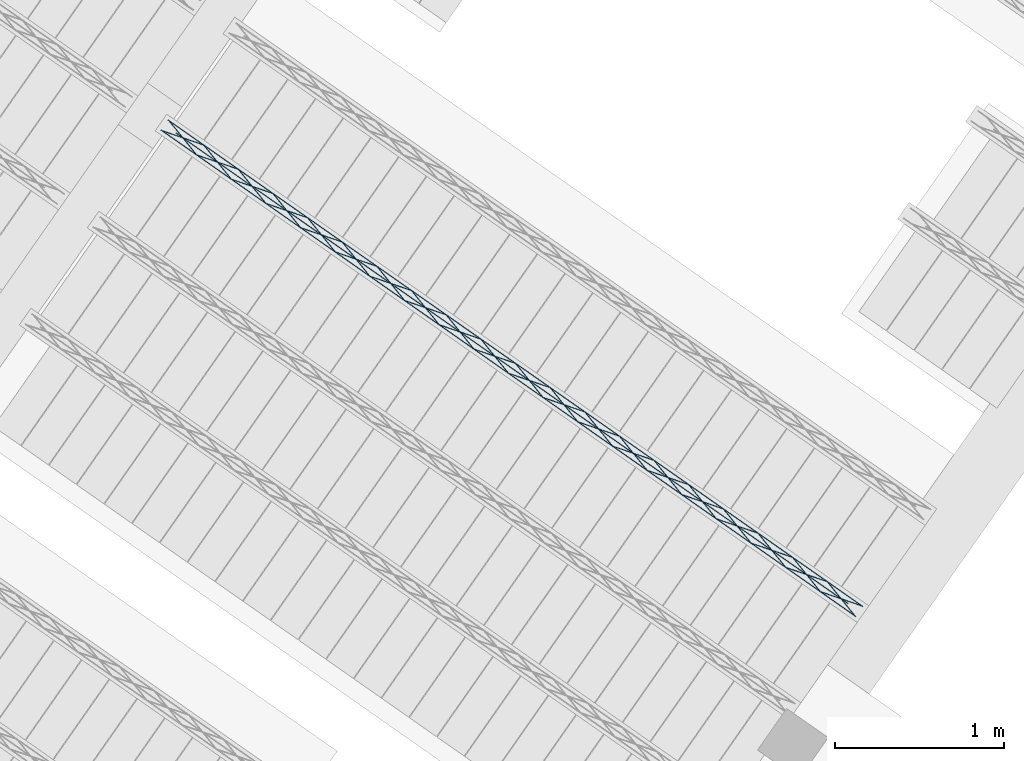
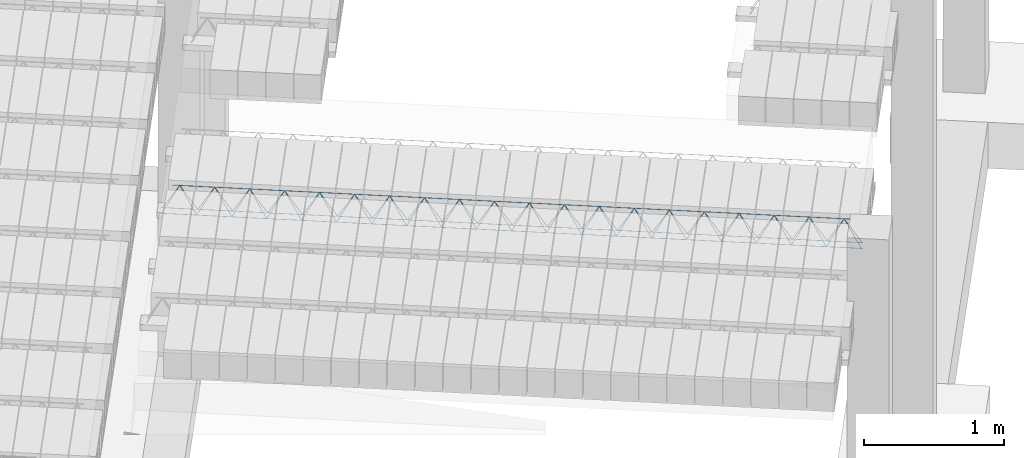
# One storey, part 26 of 80: 1 member.
"""IFC2X3 building model written with IfcOpenShell, lengths in metres."""

import ifcopenshell
import ifcopenshell.guid

model = None  # the IFC model being written
_history = None  # IfcOwnerHistory: only IFC2X3 demands one
_inside = {}  # id of a spatial element -> (the spatial element, [elements in it])
_under = {}  # id of a project, library or spatial element -> (it, [spatial elements below it])
_declared = {}  # id of a project -> (the project, [libraries it declares])
_typed = {}  # id of a type object -> (the type object, [elements of that type])
_made_of = {}  # id of a material, layer set ... -> (it, [elements and type objects made of it])


def new_model(schema):
    """Start an empty IFC model of exactly this schema.

    Asked for "IFC4X3", IfcOpenShell would pick the latest addendum, in which some entities
    have other attributes; the version numbers below select the first issue.
    IFC2X3 requires an IfcOwnerHistory on every rooted entity: one is made here for all.
    """
    global model, _history
    if schema == "IFC4X3":
        model = ifcopenshell.file(schema_version=(4, 3, 0, 0))
    else:
        model = ifcopenshell.file(schema=schema)
    _inside.clear()
    _under.clear()
    _declared.clear()
    _typed.clear()
    _made_of.clear()
    _history = None
    if model.schema == "IFC2X3":
        org = make("IfcOrganization", Name="unknown")
        user = make(
            "IfcPersonAndOrganization",
            ThePerson=make("IfcPerson", FamilyName="unknown"),
            TheOrganization=org,
        )
        app = make(
            "IfcApplication",
            ApplicationDeveloper=org,
            Version="unknown",
            ApplicationFullName="unknown",
            ApplicationIdentifier="unknown",
        )
        _history = make(
            "IfcOwnerHistory",
            OwningUser=user,
            OwningApplication=app,
            ChangeAction="ADDED",
            CreationDate=0,
        )
    return model


def make(cls, **values):
    """One entity of the class cls with the attributes given. An attribute that is None is left unset."""
    return model.create_entity(
        cls, **{name: value for name, value in values.items() if value is not None}
    )


def entity(cls, *values):
    """Any entity or typed value of the class cls, its attributes in the order of the schema. None: left unset."""
    e = model.create_entity(cls)
    for i, value in enumerate(values):
        if value is not None:
            e[i] = value
    return e


def rooted(cls, **values):
    """An entity with a GlobalId (a new one), such as an element, a storey or a relation."""
    return make(cls, GlobalId=ifcopenshell.guid.new(), OwnerHistory=_history, **values)


def si_unit(unit_type, name, prefix=None):
    """IfcSIUnit, for example si_unit("LENGTHUNIT", "METRE", prefix="MILLI")."""
    return make("IfcSIUnit", UnitType=unit_type, Prefix=prefix, Name=name)


def converted_unit(unit_type, name, factor, base, dimensions=None, offset=None):
    """IfcConversionBasedUnit, such as the inch: factor (a typed value) times the base unit."""
    return make(
        "IfcConversionBasedUnit"
        if offset is None
        else "IfcConversionBasedUnitWithOffset",
        ConversionOffset=offset,
        Dimensions=None
        if dimensions is None
        else entity("IfcDimensionalExponents", *dimensions),
        UnitType=unit_type,
        Name=name,
        ConversionFactor=make(
            "IfcMeasureWithUnit", ValueComponent=factor, UnitComponent=base
        ),
    )


def derived_unit(unit_type, elements):
    """IfcDerivedUnit: a product of units, each with its exponent."""
    return make(
        "IfcDerivedUnit",
        Elements=[
            make("IfcDerivedUnitElement", Unit=unit, Exponent=power)
            for unit, power in elements
        ],
        UnitType=unit_type,
    )


def assignment(units):
    """IfcUnitAssignment: the units of a project."""
    return None if units is None else make("IfcUnitAssignment", Units=units)


def point(xyz):
    """IfcCartesianPoint."""
    return None if xyz is None else make("IfcCartesianPoint", Coordinates=xyz)


def direction(xyz):
    """IfcDirection."""
    return None if xyz is None else make("IfcDirection", DirectionRatios=xyz)


def frame(location, z_axis=None, x_axis=None):
    """IfcAxis2Placement3D, a coordinate frame: its origin and axes. An axis left out is left unset."""
    return make(
        "IfcAxis2Placement3D",
        Location=point(location),
        Axis=direction(z_axis),
        RefDirection=direction(x_axis),
    )


def frame_2d(location, x_axis=None):
    """IfcAxis2Placement2D, a coordinate frame in the plane: its origin and x axis."""
    return make(
        "IfcAxis2Placement2D", Location=point(location), RefDirection=direction(x_axis)
    )


def origin():
    """The frame at (0, 0, 0) with its axes left unset."""
    return frame((0.0, 0.0, 0.0))


def origin_2d_with_axis():
    """The frame at (0, 0) in the plane with the x axis (1, 0) written out."""
    return frame_2d((0.0, 0.0), x_axis=(1.0, 0.0))


def place(relative_to, where):
    """IfcLocalPlacement: puts the frame where relative to a parent placement (None: the world)."""
    return make(
        "IfcLocalPlacement", PlacementRelTo=relative_to, RelativePlacement=where
    )


def context(
    kind, dimensions, precision=None, world=None, true_north=None, identifier=None
):
    """IfcGeometricRepresentationContext, for example the 3D "Model" context."""
    return make(
        "IfcGeometricRepresentationContext",
        ContextIdentifier=identifier,
        ContextType=kind,
        CoordinateSpaceDimension=dimensions,
        Precision=precision,
        WorldCoordinateSystem=world,
        TrueNorth=true_north,
    )


def subcontext(parent, identifier, kind, view, scale=None):
    """IfcGeometricRepresentationSubContext, for example "Body" below "Model"."""
    return make(
        "IfcGeometricRepresentationSubContext",
        ContextIdentifier=identifier,
        ContextType=kind,
        ParentContext=parent,
        TargetScale=scale,
        TargetView=view,
    )


def project(units=None, contexts=None):
    """IfcProject with its units and contexts."""
    return rooted(
        "IfcProject",
        Name="project",
        RepresentationContexts=contexts,
        UnitsInContext=assignment(units),
    )


def spatial(cls, under=None, at=None, **own):
    """A site, building, storey or space (cls), placed at a placement, below another one or the project."""
    s = rooted(cls, ObjectPlacement=at, **own)
    if under is not None:
        _under.setdefault(under.id(), (under, []))[1].append(s)
    return s


def profile(cls, at=None, kind="AREA", **sizes):
    """A parametric profile (cls). Its sizes go by their IFC names, for example OverallWidth=200.0."""
    return make(cls, ProfileType=kind, Position=at, **sizes)


def circle(**sizes):
    """IfcCircleProfileDef."""
    return profile("IfcCircleProfileDef", **sizes)


def extrude(swept, where, along, depth):
    """IfcExtrudedAreaSolid: the profile swept, set in the frame where, extruded along a direction by depth."""
    return make(
        "IfcExtrudedAreaSolid",
        SweptArea=swept,
        Position=where,
        ExtrudedDirection=direction(along),
        Depth=depth,
    )


def shape(context_of_items, identifier, shape_type, items):
    """IfcShapeRepresentation: the items that make up one representation, for example the "Body"."""
    return make(
        "IfcShapeRepresentation",
        ContextOfItems=context_of_items,
        RepresentationIdentifier=identifier,
        RepresentationType=shape_type,
        Items=items,
    )


def made_of(thing, what):
    """Note that an element or type object is made of a material, layer set ...; save() writes the relation."""
    if what is not None:
        _made_of.setdefault(what.id(), (what, []))[1].append(thing)
    return thing


def type_object(cls, material=None, **own):
    """A type object (cls), such as IfcWallType, which elements share."""
    return made_of(rooted(cls, **own), material)


def element(
    cls,
    number,
    at=None,
    inside=None,
    cuts=None,
    type_object=None,
    material=None,
    context=None,
    identifier="Body",
    shape_type=None,
    held_by="IfcProductDefinitionShape",
    body=None,
    shapes=None,
    **own,
):
    """One element of the class cls, such as IfcWall. Its Tag is "e" and its number.

    at: its placement. inside: the storey or other place that contains it. cuts: it is an
    opening in that element (IfcRelVoidsElement). A single representation is given by context,
    identifier, shape_type and body (its items); several are given by shapes. held_by: the class
    of the entity that holds the representations. save() writes the other relations.
    """
    e = rooted(cls, Tag="e%d" % number, ObjectPlacement=at, **own)
    if body is not None:
        shapes = [shape(context, identifier, shape_type, body)]
    if shapes is not None:
        e.Representation = make(held_by, Representations=shapes)
    if inside is not None:
        _inside.setdefault(inside.id(), (inside, []))[1].append(e)
    if cuts is not None:
        rooted(
            "IfcRelVoidsElement", RelatingBuildingElement=cuts, RelatedOpeningElement=e
        )
    if type_object is not None:
        _typed.setdefault(type_object.id(), (type_object, []))[1].append(e)
    return made_of(e, material)


def aggregate(whole, parts):
    """IfcRelAggregates: a whole, such as a stair, and the parts it consists of."""
    return rooted("IfcRelAggregates", RelatingObject=whole, RelatedObjects=parts)


def save(model, path):
    """Write the relations noted so far, then the file.

    IfcRelAggregates (storeys below a building ...), IfcRelContainedInSpatialStructure (elements
    in a storey), IfcRelDefinesByType, IfcRelAssociatesMaterial and IfcRelDeclares: one each for
    every whole, place, type object, material and project.
    """
    for whole, parts in _under.values():
        aggregate(whole, parts)
    for where, things in _inside.values():
        rooted(
            "IfcRelContainedInSpatialStructure",
            RelatedElements=things,
            RelatingStructure=where,
        )
    for kind, things in _typed.values():
        rooted("IfcRelDefinesByType", RelatedObjects=things, RelatingType=kind)
    for what, things in _made_of.values():
        rooted("IfcRelAssociatesMaterial", RelatedObjects=things, RelatingMaterial=what)
    for by, libraries in _declared.values():
        rooted("IfcRelDeclares", RelatingContext=by, RelatedDefinitions=libraries)
    model.write(path)


model = new_model("IFC2X3")

# Units and contexts
model_context = context("Model", 3, precision=1e-05, world=origin(), true_north=direction((6.123031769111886e-17, 1.0)))
body_context = subcontext(model_context, "Body", "Model", "MODEL_VIEW")
ifc_project = project(units=[si_unit("LENGTHUNIT", "METRE"), si_unit("AREAUNIT", "SQUARE_METRE"), si_unit("VOLUMEUNIT", "CUBIC_METRE"), converted_unit("PLANEANGLEUNIT", "DEGREE", entity("IfcPlaneAngleMeasure", 0.017453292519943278), si_unit("PLANEANGLEUNIT", "RADIAN"), dimensions=[0, 0, 0, 0, 0, 0, 0]), si_unit("MASSUNIT", "GRAM", prefix="KILO"), derived_unit("MASSDENSITYUNIT", [(si_unit("MASSUNIT", "GRAM", prefix="KILO"), 1), (si_unit("LENGTHUNIT", "METRE"), -3)]), derived_unit("IONCONCENTRATIONUNIT", [(si_unit("MASSUNIT", "GRAM", prefix="KILO"), 1), (si_unit("LENGTHUNIT", "METRE"), -3)]), derived_unit("MOMENTOFINERTIAUNIT", [(si_unit("LENGTHUNIT", "METRE"), 4)]), si_unit("TIMEUNIT", "SECOND"), si_unit("FREQUENCYUNIT", "HERTZ"), si_unit("THERMODYNAMICTEMPERATUREUNIT", "DEGREE_CELSIUS"), derived_unit("THERMALTRANSMITTANCEUNIT", [(si_unit("MASSUNIT", "GRAM", prefix="KILO"), 1), (si_unit("THERMODYNAMICTEMPERATUREUNIT", "KELVIN"), -1), (si_unit("TIMEUNIT", "SECOND"), -3)]), derived_unit("THERMALCONDUCTANCEUNIT", [(si_unit("MASSUNIT", "GRAM", prefix="KILO"), 1), (si_unit("THERMODYNAMICTEMPERATUREUNIT", "KELVIN"), -1), (si_unit("TIMEUNIT", "SECOND"), -3), (si_unit("LENGTHUNIT", "METRE"), 1)]), derived_unit("VOLUMETRICFLOWRATEUNIT", [(si_unit("LENGTHUNIT", "METRE", prefix="DECI"), 3), (si_unit("TIMEUNIT", "SECOND"), -1)]), derived_unit("MASSFLOWRATEUNIT", [(si_unit("MASSUNIT", "GRAM", prefix="KILO"), 1), (si_unit("TIMEUNIT", "SECOND"), -1)]), derived_unit("ROTATIONALFREQUENCYUNIT", [(si_unit("TIMEUNIT", "SECOND"), -1)]), si_unit("ELECTRICCURRENTUNIT", "AMPERE"), si_unit("ELECTRICVOLTAGEUNIT", "VOLT"), si_unit("POWERUNIT", "WATT"), si_unit("FORCEUNIT", "NEWTON", prefix="KILO"), si_unit("ILLUMINANCEUNIT", "LUX"), si_unit("LUMINOUSFLUXUNIT", "LUMEN"), si_unit("LUMINOUSINTENSITYUNIT", "CANDELA"), si_unit("ENERGYUNIT", "JOULE"), derived_unit("USERDEFINED", [(si_unit("MASSUNIT", "GRAM", prefix="KILO"), -1), (si_unit("LENGTHUNIT", "METRE"), -2), (si_unit("TIMEUNIT", "SECOND"), 3), (si_unit("LUMINOUSFLUXUNIT", "LUMEN"), 1)]), derived_unit("USERDEFINED", [(si_unit("MASSUNIT", "GRAM", prefix="KILO"), 1), (si_unit("TIMEUNIT", "SECOND"), -3), (si_unit("LENGTHUNIT", "METRE"), 3), (si_unit("ELECTRICCURRENTUNIT", "AMPERE"), -2)]), derived_unit("SOUNDPOWERUNIT", [(si_unit("MASSUNIT", "GRAM", prefix="KILO"), 1), (si_unit("TIMEUNIT", "SECOND"), -3), (si_unit("LENGTHUNIT", "METRE"), 2)]), derived_unit("SOUNDPRESSUREUNIT", [(si_unit("MASSUNIT", "GRAM", prefix="KILO"), 1), (si_unit("LENGTHUNIT", "METRE"), -1), (si_unit("TIMEUNIT", "SECOND"), -2)]), derived_unit("LINEARVELOCITYUNIT", [(si_unit("LENGTHUNIT", "METRE"), 1), (si_unit("TIMEUNIT", "SECOND"), -1)]), si_unit("PRESSUREUNIT", "PASCAL"), derived_unit("USERDEFINED", [(si_unit("MASSUNIT", "GRAM", prefix="KILO"), 1), (si_unit("LENGTHUNIT", "METRE"), -2), (si_unit("TIMEUNIT", "SECOND"), -2)]), derived_unit("LINEARFORCEUNIT", [(si_unit("MASSUNIT", "GRAM", prefix="KILO"), 1), (si_unit("TIMEUNIT", "SECOND"), -2)]), derived_unit("PLANARFORCEUNIT", [(si_unit("MASSUNIT", "GRAM", prefix="KILO"), 1), (si_unit("LENGTHUNIT", "METRE"), -1), (si_unit("TIMEUNIT", "SECOND"), -2)]), derived_unit("SPECIFICHEATCAPACITYUNIT", [(si_unit("THERMODYNAMICTEMPERATUREUNIT", "KELVIN"), -1), (si_unit("LENGTHUNIT", "METRE"), 2), (si_unit("TIMEUNIT", "SECOND"), -2)]), derived_unit("HEATFLUXDENSITYUNIT", [(si_unit("MASSUNIT", "GRAM", prefix="KILO"), 1), (si_unit("TIMEUNIT", "SECOND"), -3)]), derived_unit("HEATINGVALUEUNIT", [(si_unit("LENGTHUNIT", "METRE"), 2), (si_unit("TIMEUNIT", "SECOND"), -2)]), derived_unit("VAPORPERMEABILITYUNIT", [(si_unit("LENGTHUNIT", "METRE"), -1), (si_unit("TIMEUNIT", "SECOND"), 1)]), derived_unit("DYNAMICVISCOSITYUNIT", [(si_unit("MASSUNIT", "GRAM", prefix="KILO"), 1), (si_unit("TIMEUNIT", "SECOND"), -1), (si_unit("LENGTHUNIT", "METRE"), -1)]), derived_unit("THERMALEXPANSIONCOEFFICIENTUNIT", [(si_unit("THERMODYNAMICTEMPERATUREUNIT", "KELVIN"), -1)]), derived_unit("MODULUSOFELASTICITYUNIT", [(si_unit("MASSUNIT", "GRAM", prefix="KILO"), 1), (si_unit("LENGTHUNIT", "METRE"), -1), (si_unit("TIMEUNIT", "SECOND"), -2)]), derived_unit("ISOTHERMALMOISTURECAPACITYUNIT", [(si_unit("MASSUNIT", "GRAM", prefix="KILO"), -1), (si_unit("LENGTHUNIT", "METRE"), 3)]), derived_unit("MOISTUREDIFFUSIVITYUNIT", [(si_unit("TIMEUNIT", "SECOND"), -1), (si_unit("LENGTHUNIT", "METRE"), 2)]), derived_unit("MASSPERLENGTHUNIT", [(si_unit("MASSUNIT", "GRAM", prefix="KILO"), 1), (si_unit("LENGTHUNIT", "METRE"), -1)]), derived_unit("THERMALRESISTANCEUNIT", [(si_unit("MASSUNIT", "GRAM", prefix="KILO"), -1), (si_unit("TIMEUNIT", "SECOND"), 3), (si_unit("THERMODYNAMICTEMPERATUREUNIT", "KELVIN"), 1)]), derived_unit("ACCELERATIONUNIT", [(si_unit("LENGTHUNIT", "METRE"), 1), (si_unit("TIMEUNIT", "SECOND"), -2)]), derived_unit("ANGULARVELOCITYUNIT", [(si_unit("TIMEUNIT", "SECOND"), -1), (si_unit("PLANEANGLEUNIT", "RADIAN"), 1)]), derived_unit("LINEARSTIFFNESSUNIT", [(si_unit("MASSUNIT", "GRAM", prefix="KILO"), 1), (si_unit("TIMEUNIT", "SECOND"), -2)]), derived_unit("WARPINGCONSTANTUNIT", [(si_unit("LENGTHUNIT", "METRE"), 6)]), derived_unit("LINEARMOMENTUNIT", [(si_unit("MASSUNIT", "GRAM", prefix="KILO"), 1), (si_unit("LENGTHUNIT", "METRE"), 1), (si_unit("TIMEUNIT", "SECOND"), -2)]), derived_unit("TORQUEUNIT", [(si_unit("MASSUNIT", "GRAM", prefix="KILO"), 1), (si_unit("LENGTHUNIT", "METRE"), 2), (si_unit("TIMEUNIT", "SECOND"), -2)])], contexts=[model_context])

# Site, building, storey
site_placement = place(None, origin())
site = spatial("IfcSite", under=ifc_project, at=site_placement, Name="Default", CompositionType="ELEMENT")
building_placement = place(site_placement, origin())
building = spatial("IfcBuilding", under=site, at=building_placement, CompositionType="ELEMENT")
storey_placement = place(building_placement, frame((0.0, 0.0, 95.94)))
storey = spatial("IfcBuildingStorey", under=building, at=storey_placement, Name="PB", CompositionType="ELEMENT", Elevation=95.94)

# Member
member_type = type_object("IfcMemberType", Name="Celosía (Vigueta 3 - Paño 6)", PredefinedType="NOTDEFINED")
member_placement = place(storey_placement, origin())
element("IfcMember", 1, at=member_placement, inside=storey, type_object=member_type, Name="Celosía (Vigueta 3 - Paño 6)", context=body_context, shape_type="SweptSolid", body=[
    extrude(circle(Radius=0.0025, at=origin_2d_with_axis()), frame((4.161911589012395, 4.928398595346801, 3.3049999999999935), z_axis=(0.8191520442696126, -0.5735764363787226, 0.0), x_axis=(-0.5735764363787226, -0.8191520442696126, 0.0)), (0.0, 0.0, 1.0), 5.017554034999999),
    extrude(circle(Radius=0.0025, at=origin_2d_with_axis()), frame((8.224073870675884, 2.1279898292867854, 3.5299999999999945), z_axis=(-0.8191520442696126, 0.5735764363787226, 0.0), x_axis=(-0.5735764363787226, -0.8191520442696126, 0.0)), (0.0, 0.0, 1.0), 4.849999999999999),
    extrude(circle(Radius=0.0025, at=origin_2d_with_axis()), frame((8.264861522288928, 2.0554821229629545, 3.3049999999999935), z_axis=(-0.3145304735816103, 0.389334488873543, 0.8657304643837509), x_axis=(-0.7778747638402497, -0.6284193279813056, 0.0)), (0.0, 0.0, 1.0), 0.2598961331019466),
    extrude(circle(Radius=0.0025, at=origin_2d_with_axis()), frame((8.060073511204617, 2.198876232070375, 3.3049999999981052), z_axis=(0.47343050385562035, -0.1624017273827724, 0.8657304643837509), x_axis=(-0.3244721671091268, -0.9458952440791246, 0.0)), (0.0, 0.0, 1.0), 0.25989613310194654),
    extrude(circle(Radius=0.0025, at=origin_2d_with_axis()), frame((8.060073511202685, 2.1988762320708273, 3.3049999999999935), z_axis=(-0.3145304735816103, 0.389334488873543, 0.8657304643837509), x_axis=(-0.7778747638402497, -0.6284193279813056, 0.0)), (0.0, 0.0, 1.0), 0.2598961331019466),
    extrude(circle(Radius=0.0025, at=origin_2d_with_axis()), frame((7.855285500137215, 2.342270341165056, 3.3049999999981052), z_axis=(0.47343050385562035, -0.1624017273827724, 0.8657304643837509), x_axis=(-0.3244721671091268, -0.9458952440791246, 0.0)), (0.0, 0.0, 1.0), 0.25989613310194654),
    extrude(circle(Radius=0.0025, at=origin_2d_with_axis()), frame((7.855285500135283, 2.342270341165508, 3.3049999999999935), z_axis=(-0.3145304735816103, 0.389334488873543, 0.8657304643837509), x_axis=(-0.7778747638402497, -0.6284193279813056, 0.0)), (0.0, 0.0, 1.0), 0.2598961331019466),
    extrude(circle(Radius=0.0025, at=origin_2d_with_axis()), frame((7.650497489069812, 2.485664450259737, 3.3049999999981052), z_axis=(0.47343050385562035, -0.1624017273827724, 0.8657304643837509), x_axis=(-0.3244721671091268, -0.9458952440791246, 0.0)), (0.0, 0.0, 1.0), 0.25989613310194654),
    extrude(circle(Radius=0.0025, at=origin_2d_with_axis()), frame((7.650497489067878, 2.4856644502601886, 3.3049999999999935), z_axis=(-0.3145304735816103, 0.389334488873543, 0.8657304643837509), x_axis=(-0.7778747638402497, -0.6284193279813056, 0.0)), (0.0, 0.0, 1.0), 0.2598961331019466),
    extrude(circle(Radius=0.0025, at=origin_2d_with_axis()), frame((7.445709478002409, 2.6290585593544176, 3.3049999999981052), z_axis=(0.47343050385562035, -0.1624017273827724, 0.8657304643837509), x_axis=(-0.3244721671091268, -0.9458952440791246, 0.0)), (0.0, 0.0, 1.0), 0.25989613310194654),
    extrude(circle(Radius=0.0025, at=origin_2d_with_axis()), frame((7.445709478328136, 2.629058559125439, 3.3049999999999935), z_axis=(-0.3145304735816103, 0.389334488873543, 0.8657304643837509), x_axis=(-0.7778747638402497, -0.6284193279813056, 0.0)), (0.0, 0.0, 1.0), 0.2598961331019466),
    extrude(circle(Radius=0.0025, at=origin_2d_with_axis()), frame((7.240921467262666, 2.7724526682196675, 3.3049999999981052), z_axis=(0.47343050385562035, -0.1624017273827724, 0.8657304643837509), x_axis=(-0.3244721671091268, -0.9458952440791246, 0.0)), (0.0, 0.0, 1.0), 0.25989613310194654),
    extrude(circle(Radius=0.0025, at=origin_2d_with_axis()), frame((7.240921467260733, 2.772452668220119, 3.3049999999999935), z_axis=(-0.3145304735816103, 0.389334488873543, 0.8657304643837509), x_axis=(-0.7778747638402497, -0.6284193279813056, 0.0)), (0.0, 0.0, 1.0), 0.2598961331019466),
    extrude(circle(Radius=0.0025, at=origin_2d_with_axis()), frame((7.036133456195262, 2.915846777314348, 3.3049999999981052), z_axis=(0.47343050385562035, -0.1624017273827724, 0.8657304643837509), x_axis=(-0.3244721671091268, -0.9458952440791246, 0.0)), (0.0, 0.0, 1.0), 0.25989613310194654),
    extrude(circle(Radius=0.0025, at=origin_2d_with_axis()), frame((7.036133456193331, 2.9158467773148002, 3.3049999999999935), z_axis=(-0.3145304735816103, 0.389334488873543, 0.8657304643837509), x_axis=(-0.7778747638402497, -0.6284193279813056, 0.0)), (0.0, 0.0, 1.0), 0.2598961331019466),
    extrude(circle(Radius=0.0025, at=origin_2d_with_axis()), frame((6.83134544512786, 3.059240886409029, 3.3049999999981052), z_axis=(0.47343050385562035, -0.1624017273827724, 0.8657304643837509), x_axis=(-0.3244721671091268, -0.9458952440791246, 0.0)), (0.0, 0.0, 1.0), 0.25989613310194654),
    extrude(circle(Radius=0.0025, at=origin_2d_with_axis()), frame((6.831345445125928, 3.059240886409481, 3.3049999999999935), z_axis=(-0.3145304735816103, 0.389334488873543, 0.8657304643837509), x_axis=(-0.7778747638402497, -0.6284193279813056, 0.0)), (0.0, 0.0, 1.0), 0.2598961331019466),
    extrude(circle(Radius=0.0025, at=origin_2d_with_axis()), frame((6.626557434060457, 3.2026349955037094, 3.3049999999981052), z_axis=(0.47343050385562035, -0.1624017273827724, 0.8657304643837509), x_axis=(-0.3244721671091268, -0.9458952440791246, 0.0)), (0.0, 0.0, 1.0), 0.25989613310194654),
    extrude(circle(Radius=0.0025, at=origin_2d_with_axis()), frame((6.626557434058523, 3.202634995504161, 3.3049999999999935), z_axis=(-0.3145304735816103, 0.389334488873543, 0.8657304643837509), x_axis=(-0.7778747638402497, -0.6284193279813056, 0.0)), (0.0, 0.0, 1.0), 0.2598961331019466),
    extrude(circle(Radius=0.0025, at=origin_2d_with_axis()), frame((6.421769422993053, 3.34602910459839, 3.3049999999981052), z_axis=(0.47343050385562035, -0.1624017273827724, 0.8657304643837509), x_axis=(-0.3244721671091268, -0.9458952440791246, 0.0)), (0.0, 0.0, 1.0), 0.25989613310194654),
    extrude(circle(Radius=0.0025, at=origin_2d_with_axis()), frame((6.421769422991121, 3.3460291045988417, 3.3049999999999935), z_axis=(-0.3145304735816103, 0.389334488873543, 0.8657304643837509), x_axis=(-0.7778747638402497, -0.6284193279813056, 0.0)), (0.0, 0.0, 1.0), 0.2598961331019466),
    extrude(circle(Radius=0.0025, at=origin_2d_with_axis()), frame((6.216981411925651, 3.4894232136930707, 3.3049999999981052), z_axis=(0.47343050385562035, -0.1624017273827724, 0.8657304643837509), x_axis=(-0.3244721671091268, -0.9458952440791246, 0.0)), (0.0, 0.0, 1.0), 0.25989613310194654),
    extrude(circle(Radius=0.0025, at=origin_2d_with_axis()), frame((6.216981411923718, 3.4894232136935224, 3.3049999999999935), z_axis=(-0.3145304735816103, 0.389334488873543, 0.8657304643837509), x_axis=(-0.7778747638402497, -0.6284193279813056, 0.0)), (0.0, 0.0, 1.0), 0.2598961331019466),
    extrude(circle(Radius=0.0025, at=origin_2d_with_axis()), frame((6.012193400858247, 3.632817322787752, 3.3049999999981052), z_axis=(0.47343050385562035, -0.1624017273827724, 0.8657304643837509), x_axis=(-0.3244721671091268, -0.9458952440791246, 0.0)), (0.0, 0.0, 1.0), 0.25989613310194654),
    extrude(circle(Radius=0.0025, at=origin_2d_with_axis()), frame((6.012193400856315, 3.632817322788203, 3.3049999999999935), z_axis=(-0.3145304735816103, 0.389334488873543, 0.8657304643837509), x_axis=(-0.7778747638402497, -0.6284193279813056, 0.0)), (0.0, 0.0, 1.0), 0.2598961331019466),
    extrude(circle(Radius=0.0025, at=origin_2d_with_axis()), frame((5.807405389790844, 3.776211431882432, 3.3049999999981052), z_axis=(0.47343050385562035, -0.1624017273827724, 0.8657304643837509), x_axis=(-0.3244721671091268, -0.9458952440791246, 0.0)), (0.0, 0.0, 1.0), 0.25989613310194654),
    extrude(circle(Radius=0.0025, at=origin_2d_with_axis()), frame((5.807405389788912, 3.7762114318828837, 3.3049999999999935), z_axis=(-0.3145304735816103, 0.389334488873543, 0.8657304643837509), x_axis=(-0.7778747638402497, -0.6284193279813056, 0.0)), (0.0, 0.0, 1.0), 0.2598961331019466),
    extrude(circle(Radius=0.0025, at=origin_2d_with_axis()), frame((5.6026173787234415, 3.9196055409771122, 3.3049999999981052), z_axis=(0.47343050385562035, -0.1624017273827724, 0.8657304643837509), x_axis=(-0.3244721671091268, -0.9458952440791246, 0.0)), (0.0, 0.0, 1.0), 0.25989613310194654),
    extrude(circle(Radius=0.0025, at=origin_2d_with_axis()), frame((5.602617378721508, 3.919605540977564, 3.3049999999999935), z_axis=(-0.3145304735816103, 0.389334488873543, 0.8657304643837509), x_axis=(-0.7778747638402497, -0.6284193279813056, 0.0)), (0.0, 0.0, 1.0), 0.2598961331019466),
    extrude(circle(Radius=0.0025, at=origin_2d_with_axis()), frame((5.397829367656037, 4.062999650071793, 3.3049999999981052), z_axis=(0.47343050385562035, -0.1624017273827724, 0.8657304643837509), x_axis=(-0.3244721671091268, -0.9458952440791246, 0.0)), (0.0, 0.0, 1.0), 0.25989613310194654),
    extrude(circle(Radius=0.0025, at=origin_2d_with_axis()), frame((5.397829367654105, 4.062999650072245, 3.3049999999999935), z_axis=(-0.3145304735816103, 0.389334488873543, 0.8657304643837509), x_axis=(-0.7778747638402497, -0.6284193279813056, 0.0)), (0.0, 0.0, 1.0), 0.2598961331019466),
    extrude(circle(Radius=0.0025, at=origin_2d_with_axis()), frame((5.193041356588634, 4.206393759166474, 3.3049999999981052), z_axis=(0.47343050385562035, -0.1624017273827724, 0.8657304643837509), x_axis=(-0.3244721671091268, -0.9458952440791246, 0.0)), (0.0, 0.0, 1.0), 0.25989613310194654),
    extrude(circle(Radius=0.0025, at=origin_2d_with_axis()), frame((5.193041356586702, 4.206393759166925, 3.3049999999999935), z_axis=(-0.3145304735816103, 0.389334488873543, 0.8657304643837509), x_axis=(-0.7778747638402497, -0.6284193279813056, 0.0)), (0.0, 0.0, 1.0), 0.2598961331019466),
    extrude(circle(Radius=0.0025, at=origin_2d_with_axis()), frame((4.9882533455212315, 4.349787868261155, 3.3049999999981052), z_axis=(0.47343050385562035, -0.1624017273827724, 0.8657304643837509), x_axis=(-0.3244721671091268, -0.9458952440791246, 0.0)), (0.0, 0.0, 1.0), 0.25989613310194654),
    extrude(circle(Radius=0.0025, at=origin_2d_with_axis()), frame((4.988253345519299, 4.349787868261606, 3.3049999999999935), z_axis=(-0.3145304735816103, 0.389334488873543, 0.8657304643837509), x_axis=(-0.7778747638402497, -0.6284193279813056, 0.0)), (0.0, 0.0, 1.0), 0.2598961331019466),
    extrude(circle(Radius=0.0025, at=origin_2d_with_axis()), frame((4.783465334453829, 4.493181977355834, 3.3049999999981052), z_axis=(0.47343050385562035, -0.1624017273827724, 0.8657304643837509), x_axis=(-0.3244721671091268, -0.9458952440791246, 0.0)), (0.0, 0.0, 1.0), 0.25989613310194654),
    extrude(circle(Radius=0.0025, at=origin_2d_with_axis()), frame((4.783465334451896, 4.493181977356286, 3.3049999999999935), z_axis=(-0.3145304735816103, 0.389334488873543, 0.8657304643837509), x_axis=(-0.7778747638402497, -0.6284193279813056, 0.0)), (0.0, 0.0, 1.0), 0.2598961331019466),
    extrude(circle(Radius=0.0025, at=origin_2d_with_axis()), frame((4.578677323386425, 4.636576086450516, 3.3049999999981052), z_axis=(0.47343050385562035, -0.1624017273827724, 0.8657304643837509), x_axis=(-0.3244721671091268, -0.9458952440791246, 0.0)), (0.0, 0.0, 1.0), 0.25989613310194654),
    extrude(circle(Radius=0.0025, at=origin_2d_with_axis()), frame((4.578677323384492, 4.636576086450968, 3.3049999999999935), z_axis=(-0.3145304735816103, 0.389334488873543, 0.8657304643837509), x_axis=(-0.7778747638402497, -0.6284193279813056, 0.0)), (0.0, 0.0, 1.0), 0.2598961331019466),
    extrude(circle(Radius=0.0025, at=origin_2d_with_axis()), frame((4.373889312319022, 4.7799701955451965, 3.3049999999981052), z_axis=(0.47343050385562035, -0.1624017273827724, 0.8657304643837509), x_axis=(-0.3244721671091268, -0.9458952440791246, 0.0)), (0.0, 0.0, 1.0), 0.25989613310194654),
    extrude(circle(Radius=0.0025, at=origin_2d_with_axis()), frame((4.37388931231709, 4.779970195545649, 3.3049999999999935), z_axis=(-0.3145304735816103, 0.389334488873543, 0.8657304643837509), x_axis=(-0.7778747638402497, -0.6284193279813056, 0.0)), (0.0, 0.0, 1.0), 0.2598961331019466),
    extrude(circle(Radius=0.0025, at=origin_2d_with_axis()), frame((4.169101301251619, 4.923364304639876, 3.3049999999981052), z_axis=(0.47343050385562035, -0.1624017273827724, 0.8657304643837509), x_axis=(-0.3244721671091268, -0.9458952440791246, 0.0)), (0.0, 0.0, 1.0), 0.25989613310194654),
    extrude(circle(Radius=0.0025, at=origin_2d_with_axis()), frame((8.313348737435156, 2.109426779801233, 3.3049999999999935), z_axis=(-0.8191520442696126, 0.5735764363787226, 0.0), x_axis=(-0.5735764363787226, -0.8191520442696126, 0.0)), (0.0, 0.0, 1.0), 5.017554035),
    extrude(circle(Radius=0.0025, at=origin_2d_with_axis()), frame((8.306159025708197, 2.1144610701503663, 3.3049999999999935), z_axis=(-0.47343050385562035, 0.1624017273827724, 0.8657304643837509), x_axis=(-0.3244721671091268, -0.9458952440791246, 0.0)), (0.0, 0.0, 1.0), 0.25989613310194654),
    extrude(circle(Radius=0.0025, at=origin_2d_with_axis()), frame((8.101371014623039, 2.2578551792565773, 3.3049999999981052), z_axis=(0.3145304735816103, -0.389334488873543, 0.8657304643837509), x_axis=(-0.7778747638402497, -0.6284193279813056, 0.0)), (0.0, 0.0, 1.0), 0.2598961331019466),
    extrude(circle(Radius=0.0025, at=origin_2d_with_axis()), frame((8.101371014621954, 2.2578551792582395, 3.3049999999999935), z_axis=(-0.47343050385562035, 0.1624017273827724, 0.8657304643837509), x_axis=(-0.3244721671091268, -0.9458952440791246, 0.0)), (0.0, 0.0, 1.0), 0.25989613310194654),
    extrude(circle(Radius=0.0025, at=origin_2d_with_axis()), frame((7.8965830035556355, 2.4012492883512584, 3.3049999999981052), z_axis=(0.3145304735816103, -0.389334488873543, 0.8657304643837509), x_axis=(-0.7778747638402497, -0.6284193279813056, 0.0)), (0.0, 0.0, 1.0), 0.2598961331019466),
    extrude(circle(Radius=0.0025, at=origin_2d_with_axis()), frame((7.89658300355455, 2.40124928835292, 3.3049999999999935), z_axis=(-0.47343050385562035, 0.1624017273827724, 0.8657304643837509), x_axis=(-0.3244721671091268, -0.9458952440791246, 0.0)), (0.0, 0.0, 1.0), 0.25989613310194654),
    extrude(circle(Radius=0.0025, at=origin_2d_with_axis()), frame((7.691794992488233, 2.5446433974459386, 3.3049999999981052), z_axis=(0.3145304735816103, -0.389334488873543, 0.8657304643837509), x_axis=(-0.7778747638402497, -0.6284193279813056, 0.0)), (0.0, 0.0, 1.0), 0.2598961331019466),
    extrude(circle(Radius=0.0025, at=origin_2d_with_axis()), frame((7.6917949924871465, 2.544643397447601, 3.3049999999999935), z_axis=(-0.47343050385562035, 0.1624017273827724, 0.8657304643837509), x_axis=(-0.3244721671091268, -0.9458952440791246, 0.0)), (0.0, 0.0, 1.0), 0.25989613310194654),
    extrude(circle(Radius=0.0025, at=origin_2d_with_axis()), frame((7.48700698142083, 2.6880375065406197, 3.3049999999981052), z_axis=(0.3145304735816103, -0.389334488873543, 0.8657304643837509), x_axis=(-0.7778747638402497, -0.6284193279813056, 0.0)), (0.0, 0.0, 1.0), 0.2598961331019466),
    extrude(circle(Radius=0.0025, at=origin_2d_with_axis()), frame((7.487006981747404, 2.6880375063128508, 3.3049999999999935), z_axis=(-0.47343050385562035, 0.1624017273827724, 0.8657304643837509), x_axis=(-0.3244721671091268, -0.9458952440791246, 0.0)), (0.0, 0.0, 1.0), 0.25989613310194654),
    extrude(circle(Radius=0.0025, at=origin_2d_with_axis()), frame((7.282218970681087, 2.8314316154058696, 3.3049999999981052), z_axis=(0.3145304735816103, -0.389334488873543, 0.8657304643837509), x_axis=(-0.7778747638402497, -0.6284193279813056, 0.0)), (0.0, 0.0, 1.0), 0.2598961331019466),
    extrude(circle(Radius=0.0025, at=origin_2d_with_axis()), frame((7.282218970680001, 2.831431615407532, 3.3049999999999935), z_axis=(-0.47343050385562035, 0.1624017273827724, 0.8657304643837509), x_axis=(-0.3244721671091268, -0.9458952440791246, 0.0)), (0.0, 0.0, 1.0), 0.25989613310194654),
    extrude(circle(Radius=0.0025, at=origin_2d_with_axis()), frame((7.077430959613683, 2.97482572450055, 3.3049999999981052), z_axis=(0.3145304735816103, -0.389334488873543, 0.8657304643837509), x_axis=(-0.7778747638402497, -0.6284193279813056, 0.0)), (0.0, 0.0, 1.0), 0.2598961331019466),
    extrude(circle(Radius=0.0025, at=origin_2d_with_axis()), frame((7.077430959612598, 2.974825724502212, 3.3049999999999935), z_axis=(-0.47343050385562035, 0.1624017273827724, 0.8657304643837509), x_axis=(-0.3244721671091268, -0.9458952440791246, 0.0)), (0.0, 0.0, 1.0), 0.25989613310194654),
    extrude(circle(Radius=0.0025, at=origin_2d_with_axis()), frame((6.8726429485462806, 3.1182198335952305, 3.3049999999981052), z_axis=(0.3145304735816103, -0.389334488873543, 0.8657304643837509), x_axis=(-0.7778747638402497, -0.6284193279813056, 0.0)), (0.0, 0.0, 1.0), 0.2598961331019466),
    extrude(circle(Radius=0.0025, at=origin_2d_with_axis()), frame((6.872642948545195, 3.1182198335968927, 3.3049999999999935), z_axis=(-0.47343050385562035, 0.1624017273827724, 0.8657304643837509), x_axis=(-0.3244721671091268, -0.9458952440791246, 0.0)), (0.0, 0.0, 1.0), 0.25989613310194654),
    extrude(circle(Radius=0.0025, at=origin_2d_with_axis()), frame((6.667854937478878, 3.2616139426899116, 3.3049999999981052), z_axis=(0.3145304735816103, -0.389334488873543, 0.8657304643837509), x_axis=(-0.7778747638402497, -0.6284193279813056, 0.0)), (0.0, 0.0, 1.0), 0.2598961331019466),
    extrude(circle(Radius=0.0025, at=origin_2d_with_axis()), frame((6.667854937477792, 3.2616139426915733, 3.3049999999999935), z_axis=(-0.47343050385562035, 0.1624017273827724, 0.8657304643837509), x_axis=(-0.3244721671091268, -0.9458952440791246, 0.0)), (0.0, 0.0, 1.0), 0.25989613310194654),
    extrude(circle(Radius=0.0025, at=origin_2d_with_axis()), frame((6.463066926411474, 3.4050080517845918, 3.3049999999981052), z_axis=(0.3145304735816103, -0.389334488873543, 0.8657304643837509), x_axis=(-0.7778747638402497, -0.6284193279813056, 0.0)), (0.0, 0.0, 1.0), 0.2598961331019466),
    extrude(circle(Radius=0.0025, at=origin_2d_with_axis()), frame((6.463066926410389, 3.405008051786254, 3.3049999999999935), z_axis=(-0.47343050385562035, 0.1624017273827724, 0.8657304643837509), x_axis=(-0.3244721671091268, -0.9458952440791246, 0.0)), (0.0, 0.0, 1.0), 0.25989613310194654),
    extrude(circle(Radius=0.0025, at=origin_2d_with_axis()), frame((6.258278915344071, 3.548402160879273, 3.3049999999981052), z_axis=(0.3145304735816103, -0.389334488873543, 0.8657304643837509), x_axis=(-0.7778747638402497, -0.6284193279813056, 0.0)), (0.0, 0.0, 1.0), 0.2598961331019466),
    extrude(circle(Radius=0.0025, at=origin_2d_with_axis()), frame((6.258278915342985, 3.548402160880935, 3.3049999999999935), z_axis=(-0.47343050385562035, 0.1624017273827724, 0.8657304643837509), x_axis=(-0.3244721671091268, -0.9458952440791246, 0.0)), (0.0, 0.0, 1.0), 0.25989613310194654),
    extrude(circle(Radius=0.0025, at=origin_2d_with_axis()), frame((6.053490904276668, 3.6917962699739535, 3.3049999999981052), z_axis=(0.3145304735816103, -0.389334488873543, 0.8657304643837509), x_axis=(-0.7778747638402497, -0.6284193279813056, 0.0)), (0.0, 0.0, 1.0), 0.2598961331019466),
    extrude(circle(Radius=0.0025, at=origin_2d_with_axis()), frame((6.0534909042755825, 3.6917962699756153, 3.3049999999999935), z_axis=(-0.47343050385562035, 0.1624017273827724, 0.8657304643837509), x_axis=(-0.3244721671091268, -0.9458952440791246, 0.0)), (0.0, 0.0, 1.0), 0.25989613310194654),
    extrude(circle(Radius=0.0025, at=origin_2d_with_axis()), frame((5.848702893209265, 3.8351903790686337, 3.3049999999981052), z_axis=(0.3145304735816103, -0.389334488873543, 0.8657304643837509), x_axis=(-0.7778747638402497, -0.6284193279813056, 0.0)), (0.0, 0.0, 1.0), 0.2598961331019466),
    extrude(circle(Radius=0.0025, at=origin_2d_with_axis()), frame((5.84870289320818, 3.8351903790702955, 3.3049999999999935), z_axis=(-0.47343050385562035, 0.1624017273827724, 0.8657304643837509), x_axis=(-0.3244721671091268, -0.9458952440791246, 0.0)), (0.0, 0.0, 1.0), 0.25989613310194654),
    extrude(circle(Radius=0.0025, at=origin_2d_with_axis()), frame((5.643914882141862, 3.9785844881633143, 3.3049999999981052), z_axis=(0.3145304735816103, -0.389334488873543, 0.8657304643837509), x_axis=(-0.7778747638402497, -0.6284193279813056, 0.0)), (0.0, 0.0, 1.0), 0.2598961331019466),
    extrude(circle(Radius=0.0025, at=origin_2d_with_axis()), frame((5.643914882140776, 3.978584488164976, 3.3049999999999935), z_axis=(-0.47343050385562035, 0.1624017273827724, 0.8657304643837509), x_axis=(-0.3244721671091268, -0.9458952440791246, 0.0)), (0.0, 0.0, 1.0), 0.25989613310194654),
    extrude(circle(Radius=0.0025, at=origin_2d_with_axis()), frame((5.439126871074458, 4.121978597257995, 3.3049999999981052), z_axis=(0.3145304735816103, -0.389334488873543, 0.8657304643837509), x_axis=(-0.7778747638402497, -0.6284193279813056, 0.0)), (0.0, 0.0, 1.0), 0.2598961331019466),
    extrude(circle(Radius=0.0025, at=origin_2d_with_axis()), frame((5.439126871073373, 4.121978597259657, 3.3049999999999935), z_axis=(-0.47343050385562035, 0.1624017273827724, 0.8657304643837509), x_axis=(-0.3244721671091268, -0.9458952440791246, 0.0)), (0.0, 0.0, 1.0), 0.25989613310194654),
    extrude(circle(Radius=0.0025, at=origin_2d_with_axis()), frame((5.234338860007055, 4.265372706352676, 3.3049999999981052), z_axis=(0.3145304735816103, -0.389334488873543, 0.8657304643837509), x_axis=(-0.7778747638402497, -0.6284193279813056, 0.0)), (0.0, 0.0, 1.0), 0.2598961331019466),
    extrude(circle(Radius=0.0025, at=origin_2d_with_axis()), frame((5.23433886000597, 4.265372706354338, 3.3049999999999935), z_axis=(-0.47343050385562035, 0.1624017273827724, 0.8657304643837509), x_axis=(-0.3244721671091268, -0.9458952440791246, 0.0)), (0.0, 0.0, 1.0), 0.25989613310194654),
    extrude(circle(Radius=0.0025, at=origin_2d_with_axis()), frame((5.029550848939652, 4.408766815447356, 3.3049999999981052), z_axis=(0.3145304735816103, -0.389334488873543, 0.8657304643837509), x_axis=(-0.7778747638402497, -0.6284193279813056, 0.0)), (0.0, 0.0, 1.0), 0.2598961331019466),
    extrude(circle(Radius=0.0025, at=origin_2d_with_axis()), frame((5.029550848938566, 4.4087668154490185, 3.3049999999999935), z_axis=(-0.47343050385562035, 0.1624017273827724, 0.8657304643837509), x_axis=(-0.3244721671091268, -0.9458952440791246, 0.0)), (0.0, 0.0, 1.0), 0.25989613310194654),
    extrude(circle(Radius=0.0025, at=origin_2d_with_axis()), frame((4.82476283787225, 4.5521609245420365, 3.3049999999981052), z_axis=(0.3145304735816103, -0.389334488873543, 0.8657304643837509), x_axis=(-0.7778747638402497, -0.6284193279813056, 0.0)), (0.0, 0.0, 1.0), 0.2598961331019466),
    extrude(circle(Radius=0.0025, at=origin_2d_with_axis()), frame((4.824762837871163, 4.552160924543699, 3.3049999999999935), z_axis=(-0.47343050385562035, 0.1624017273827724, 0.8657304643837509), x_axis=(-0.3244721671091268, -0.9458952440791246, 0.0)), (0.0, 0.0, 1.0), 0.25989613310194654),
    extrude(circle(Radius=0.0025, at=origin_2d_with_axis()), frame((4.619974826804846, 4.695555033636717, 3.3049999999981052), z_axis=(0.3145304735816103, -0.389334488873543, 0.8657304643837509), x_axis=(-0.7778747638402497, -0.6284193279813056, 0.0)), (0.0, 0.0, 1.0), 0.2598961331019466),
    extrude(circle(Radius=0.0025, at=origin_2d_with_axis()), frame((4.619974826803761, 4.69555503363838, 3.3049999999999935), z_axis=(-0.47343050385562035, 0.1624017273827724, 0.8657304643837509), x_axis=(-0.3244721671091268, -0.9458952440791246, 0.0)), (0.0, 0.0, 1.0), 0.25989613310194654),
    extrude(circle(Radius=0.0025, at=origin_2d_with_axis()), frame((4.415186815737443, 4.838949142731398, 3.3049999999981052), z_axis=(0.3145304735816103, -0.389334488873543, 0.8657304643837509), x_axis=(-0.7778747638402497, -0.6284193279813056, 0.0)), (0.0, 0.0, 1.0), 0.2598961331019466),
    extrude(circle(Radius=0.0025, at=origin_2d_with_axis()), frame((4.415186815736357, 4.838949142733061, 3.3049999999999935), z_axis=(-0.47343050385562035, 0.1624017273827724, 0.8657304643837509), x_axis=(-0.3244721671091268, -0.9458952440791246, 0.0)), (0.0, 0.0, 1.0), 0.25989613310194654),
    extrude(circle(Radius=0.0025, at=origin_2d_with_axis()), frame((4.21039880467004, 4.982343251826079, 3.3049999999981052), z_axis=(0.3145304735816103, -0.389334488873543, 0.8657304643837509), x_axis=(-0.7778747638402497, -0.6284193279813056, 0.0)), (0.0, 0.0, 1.0), 0.2598961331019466),
])

save(model, "model.ifc")
